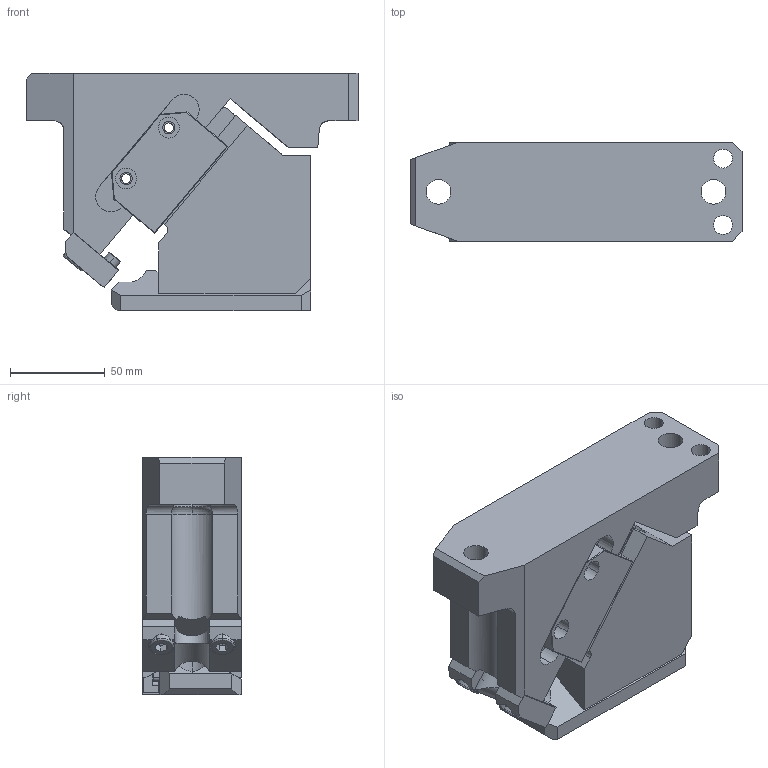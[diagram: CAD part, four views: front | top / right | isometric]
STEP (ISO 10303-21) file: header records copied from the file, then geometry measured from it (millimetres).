
FILE_DESCRIPTION (( 'STEP AP203' ), '1' );
FILE_NAME ('CLD052.00.step', '2014-05-05T08:34:11', ( '' ), ( '' ), 'SwSTEP 2.0', 'SolidWorks 2013', '' );
FILE_SCHEMA (( 'CONFIG_CONTROL_DESIGN' ));
Length unit declared in the file: millimetre
Products named in the file (4): CLD05200-01 CAM BASE; CLD05200-02 CAM SLIDER; CLD05200-03 CAM DRIVER; CLD052.00
Assembly tree (3 placements, depth 2):
  CLD052.00
    CLD05200-01 CAM BASE
    CLD05200-02 CAM SLIDER
    CLD05200-03 CAM DRIVER
Bounding box: 175 x 52 x 125 mm (x, y, z)
Volume: 711873.5 mm3; surface area: 116510.1 mm2
Topology: 3 solids, 7 shells, 376 faces, 975 edges, 618 vertices
Faces by surface type: plane 229, cylinder 122, cone 14, torus 11
Entity records: 11989 total; most frequent: CARTESIAN_POINT 2263, DIRECTION 1966, ORIENTED_EDGE 1930, EDGE_CURVE 965, AXIS2_PLACEMENT_3D 663, VECTOR 640, LINE 640, VERTEX_POINT 618
